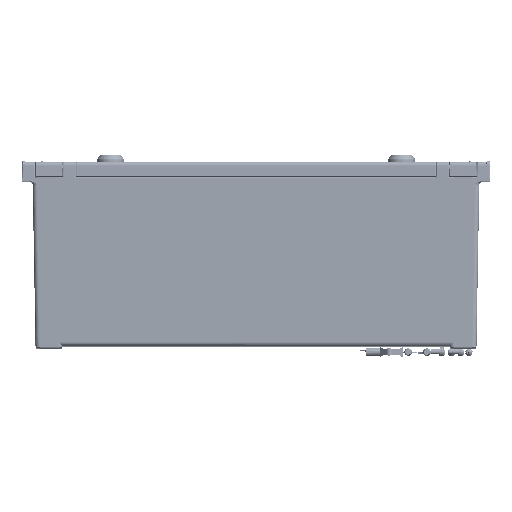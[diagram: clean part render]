
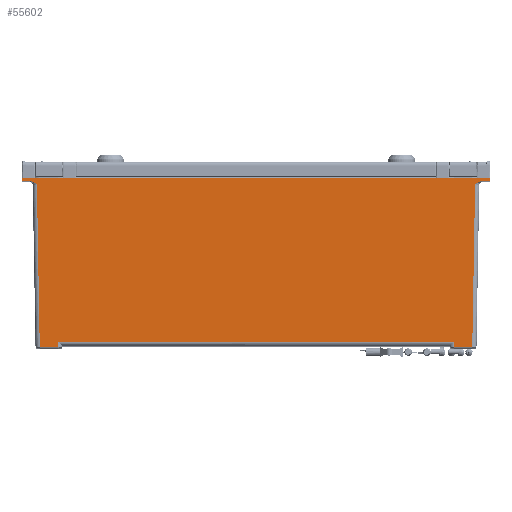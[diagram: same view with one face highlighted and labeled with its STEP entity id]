
A CAD part, top view. The second image highlights one B-rep face of the part: STEP entity #55602.
In plain terms, the highlighted planar face has unit normal (0, -0.009, 1).
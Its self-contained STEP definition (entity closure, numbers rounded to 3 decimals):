
#3643=FACE_OUTER_BOUND('',#7192,.T.);
#7192=EDGE_LOOP('',(#38089,#38090,#38091,#38092,#38093,#38094,#38095,#38096,
#38097,#38098,#38099,#38100,#38101,#38102));
#10987=B_SPLINE_CURVE_WITH_KNOTS('',3,(#88476,#88477,#88478,#88479,#88480,
#88481,#88482,#88483,#88484,#88485,#88486,#88487,#88488,#88489,#88490,#88491,
#88492,#88493),.UNSPECIFIED.,.F.,.F.,(4,2,2,2,2,2,2,2,4),(-0.772,
-0.769,-0.739,-0.714,-0.664,
-0.561,-0.344,-0.168,0.),
 .UNSPECIFIED.);
#10988=B_SPLINE_CURVE_WITH_KNOTS('',3,(#88500,#88501,#88502,#88503,#88504,
#88505,#88506,#88507,#88508,#88509,#88510,#88511,#88512,#88513,#88514,#88515,
#88516,#88517),.UNSPECIFIED.,.F.,.F.,(4,2,2,2,2,2,2,2,4),(-0.228,
-0.179,-0.127,-0.062,-0.032,
-0.017,-0.009,0.,0.001),
 .UNSPECIFIED.);
#16023=LINE('',#87623,#19619);
#16035=LINE('',#88275,#19631);
#16041=LINE('',#88464,#19637);
#16042=LINE('',#88466,#19638);
#16043=LINE('',#88468,#19639);
#16044=LINE('',#88470,#19640);
#16045=LINE('',#88472,#19641);
#16046=LINE('',#88474,#19642);
#16047=LINE('',#88495,#19643);
#16048=LINE('',#88496,#19644);
#16049=LINE('',#88498,#19645);
#16050=LINE('',#88518,#19646);
#19619=VECTOR('',#66445,499.86);
#19631=VECTOR('',#66489,4.001);
#19637=VECTOR('',#66521,19.567);
#19638=VECTOR('',#66522,5.47);
#19639=VECTOR('',#66523,422.755);
#19640=VECTOR('',#66524,5.47);
#19641=VECTOR('',#66525,19.568);
#19642=VECTOR('',#66526,173.572);
#19643=VECTOR('',#66527,10.);
#19644=VECTOR('',#66528,4.001);
#19645=VECTOR('',#66529,10.);
#19646=VECTOR('',#66530,173.572);
#23393=VERTEX_POINT('',#87620);
#23394=VERTEX_POINT('',#87622);
#23410=VERTEX_POINT('',#88273);
#23415=VERTEX_POINT('',#88462);
#23416=VERTEX_POINT('',#88463);
#23417=VERTEX_POINT('',#88465);
#23418=VERTEX_POINT('',#88467);
#23419=VERTEX_POINT('',#88469);
#23420=VERTEX_POINT('',#88471);
#23421=VERTEX_POINT('',#88473);
#23422=VERTEX_POINT('',#88475);
#23423=VERTEX_POINT('',#88494);
#23424=VERTEX_POINT('',#88497);
#23425=VERTEX_POINT('',#88499);
#29025=EDGE_CURVE('',#23394,#23393,#16023,.T.);
#29051=EDGE_CURVE('',#23410,#23393,#16035,.T.);
#29063=EDGE_CURVE('',#23415,#23416,#16041,.T.);
#29064=EDGE_CURVE('',#23415,#23417,#16042,.T.);
#29065=EDGE_CURVE('',#23417,#23418,#16043,.T.);
#29066=EDGE_CURVE('',#23419,#23418,#16044,.T.);
#29067=EDGE_CURVE('',#23420,#23419,#16045,.T.);
#29068=EDGE_CURVE('',#23421,#23420,#16046,.T.);
#29069=EDGE_CURVE('',#23421,#23422,#10987,.T.);
#29070=EDGE_CURVE('',#23422,#23423,#16047,.T.);
#29071=EDGE_CURVE('',#23423,#23394,#16048,.T.);
#29072=EDGE_CURVE('',#23410,#23424,#16049,.T.);
#29073=EDGE_CURVE('',#23424,#23425,#10988,.T.);
#29074=EDGE_CURVE('',#23416,#23425,#16050,.T.);
#38089=ORIENTED_EDGE('',*,*,#29063,.F.);
#38090=ORIENTED_EDGE('',*,*,#29064,.T.);
#38091=ORIENTED_EDGE('',*,*,#29065,.T.);
#38092=ORIENTED_EDGE('',*,*,#29066,.F.);
#38093=ORIENTED_EDGE('',*,*,#29067,.F.);
#38094=ORIENTED_EDGE('',*,*,#29068,.F.);
#38095=ORIENTED_EDGE('',*,*,#29069,.T.);
#38096=ORIENTED_EDGE('',*,*,#29070,.T.);
#38097=ORIENTED_EDGE('',*,*,#29071,.T.);
#38098=ORIENTED_EDGE('',*,*,#29025,.T.);
#38099=ORIENTED_EDGE('',*,*,#29051,.F.);
#38100=ORIENTED_EDGE('',*,*,#29072,.T.);
#38101=ORIENTED_EDGE('',*,*,#29073,.T.);
#38102=ORIENTED_EDGE('',*,*,#29074,.F.);
#54457=PLANE('',#59579);
#55602=ADVANCED_FACE('',(#3643),#54457,.F.);
#59579=AXIS2_PLACEMENT_3D('',#88461,#66519,#66520);
#66445=DIRECTION('',(-1.,0.,0.));
#66489=DIRECTION('',(0.017,1.,0.009));
#66519=DIRECTION('center_axis',(0.,0.009,-1.));
#66520=DIRECTION('ref_axis',(0.,1.,0.009));
#66521=DIRECTION('',(-1.,0.,0.));
#66522=DIRECTION('',(0.017,1.,0.009));
#66523=DIRECTION('',(1.,0.,0.));
#66524=DIRECTION('',(-0.017,1.,0.009));
#66525=DIRECTION('',(-1.,0.,0.));
#66526=DIRECTION('',(-0.017,-1.,-0.009));
#66527=DIRECTION('',(1.,0.,0.));
#66528=DIRECTION('',(-0.017,1.,0.009));
#66529=DIRECTION('',(1.,0.,0.));
#66530=DIRECTION('',(-0.017,1.,0.009));
#87620=CARTESIAN_POINT('',(-249.93,180.,200.));
#87622=CARTESIAN_POINT('',(249.93,180.,200.));
#87623=CARTESIAN_POINT('',(249.93,180.,200.));
#88273=CARTESIAN_POINT('',(-250.,176.,199.965));
#88275=CARTESIAN_POINT('',(-250.,176.,199.965));
#88461=CARTESIAN_POINT('Origin',(300.,0.,198.429));
#88462=CARTESIAN_POINT('',(-211.473,-1.009,198.42));
#88463=CARTESIAN_POINT('',(-231.04,-1.009,198.42));
#88464=CARTESIAN_POINT('',(-211.473,-1.009,198.42));
#88465=CARTESIAN_POINT('',(-211.378,4.461,198.468));
#88466=CARTESIAN_POINT('',(-211.473,-1.009,198.42));
#88467=CARTESIAN_POINT('',(211.377,4.461,198.468));
#88468=CARTESIAN_POINT('',(-211.378,4.461,198.468));
#88469=CARTESIAN_POINT('',(211.473,-1.009,198.42));
#88470=CARTESIAN_POINT('',(211.473,-1.009,198.42));
#88471=CARTESIAN_POINT('',(231.04,-1.009,198.42));
#88472=CARTESIAN_POINT('',(231.04,-1.009,198.42));
#88473=CARTESIAN_POINT('',(234.069,172.531,199.935));
#88474=CARTESIAN_POINT('',(234.069,172.531,199.935));
#88475=CARTESIAN_POINT('',(240.663,176.,199.965));
#88476=CARTESIAN_POINT('Ctrl Pts',(234.069,172.531,199.935));
#88477=CARTESIAN_POINT('Ctrl Pts',(234.073,172.534,199.935));
#88478=CARTESIAN_POINT('Ctrl Pts',(234.074,172.535,199.935));
#88479=CARTESIAN_POINT('Ctrl Pts',(234.098,172.556,199.935));
#88480=CARTESIAN_POINT('Ctrl Pts',(234.184,172.631,199.936));
#88481=CARTESIAN_POINT('Ctrl Pts',(234.318,172.75,199.937));
#88482=CARTESIAN_POINT('Ctrl Pts',(234.379,172.803,199.937));
#88483=CARTESIAN_POINT('Ctrl Pts',(234.564,172.965,199.939));
#88484=CARTESIAN_POINT('Ctrl Pts',(234.688,173.073,199.94));
#88485=CARTESIAN_POINT('Ctrl Pts',(235.067,173.398,199.942));
#88486=CARTESIAN_POINT('Ctrl Pts',(235.33,173.619,199.944));
#88487=CARTESIAN_POINT('Ctrl Pts',(236.162,174.28,199.95));
#88488=CARTESIAN_POINT('Ctrl Pts',(236.758,174.705,199.954));
#88489=CARTESIAN_POINT('Ctrl Pts',(237.908,175.345,199.959));
#88490=CARTESIAN_POINT('Ctrl Pts',(238.448,175.585,199.961));
#88491=CARTESIAN_POINT('Ctrl Pts',(239.55,175.909,199.964));
#88492=CARTESIAN_POINT('Ctrl Pts',(240.104,176.,199.965));
#88493=CARTESIAN_POINT('Ctrl Pts',(240.663,176.,199.965));
#88494=CARTESIAN_POINT('',(250.,176.,199.965));
#88495=CARTESIAN_POINT('',(269.315,176.,199.965));
#88496=CARTESIAN_POINT('',(250.,176.,199.965));
#88497=CARTESIAN_POINT('',(-240.663,176.,199.965));
#88498=CARTESIAN_POINT('',(25.,176.,199.965));
#88499=CARTESIAN_POINT('',(-234.069,172.531,199.935));
#88500=CARTESIAN_POINT('Ctrl Pts',(-240.663,176.,199.965));
#88501=CARTESIAN_POINT('Ctrl Pts',(-240.108,176.,199.965));
#88502=CARTESIAN_POINT('Ctrl Pts',(-239.558,175.911,199.964));
#88503=CARTESIAN_POINT('Ctrl Pts',(-238.462,175.59,199.962));
#88504=CARTESIAN_POINT('Ctrl Pts',(-237.924,175.353,199.959));
#88505=CARTESIAN_POINT('Ctrl Pts',(-236.773,174.716,199.954));
#88506=CARTESIAN_POINT('Ctrl Pts',(-236.173,174.289,199.95));
#88507=CARTESIAN_POINT('Ctrl Pts',(-235.337,173.624,199.944));
#88508=CARTESIAN_POINT('Ctrl Pts',(-235.073,173.403,199.942));
#88509=CARTESIAN_POINT('Ctrl Pts',(-234.691,173.076,199.94));
#88510=CARTESIAN_POINT('Ctrl Pts',(-234.567,172.967,199.939));
#88511=CARTESIAN_POINT('Ctrl Pts',(-234.381,172.805,199.937));
#88512=CARTESIAN_POINT('Ctrl Pts',(-234.319,172.751,199.937));
#88513=CARTESIAN_POINT('Ctrl Pts',(-234.181,172.629,199.936));
#88514=CARTESIAN_POINT('Ctrl Pts',(-234.1,172.557,199.935));
#88515=CARTESIAN_POINT('Ctrl Pts',(-234.074,172.535,199.935));
#88516=CARTESIAN_POINT('Ctrl Pts',(-234.073,172.534,199.935));
#88517=CARTESIAN_POINT('Ctrl Pts',(-234.069,172.531,199.935));
#88518=CARTESIAN_POINT('',(-231.04,-1.009,198.42));
